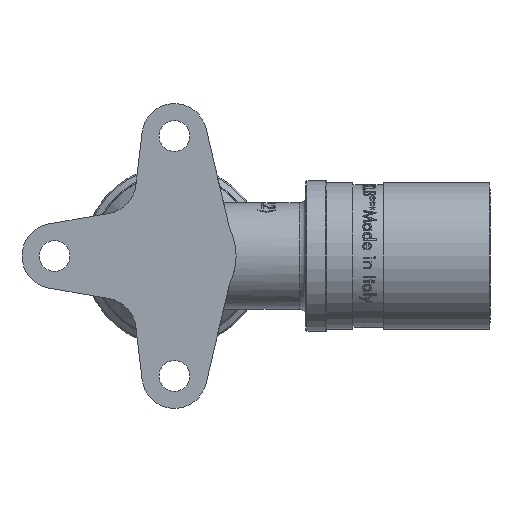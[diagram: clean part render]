
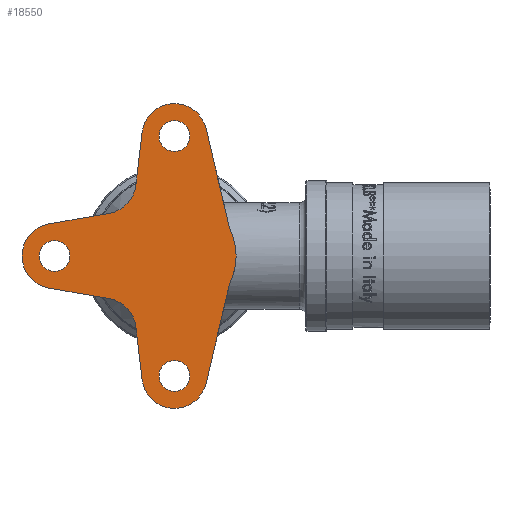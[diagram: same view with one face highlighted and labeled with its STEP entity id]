
A CAD part, front view. The second image highlights one B-rep face of the part: STEP entity #18550.
In plain terms, the highlighted planar face has unit normal (0, -1, 0).
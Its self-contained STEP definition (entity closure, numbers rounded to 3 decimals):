
#880=PLANE('',#19697);
#981=FACE_BOUND('',#3125,.T.);
#982=FACE_BOUND('',#3126,.T.);
#983=FACE_BOUND('',#3127,.T.);
#2008=FACE_OUTER_BOUND('',#3124,.T.);
#3124=EDGE_LOOP('',(#17352,#17353,#17354,#17355,#17356,#17357,#17358,#17359,
#17360,#17361,#17362,#17363,#17364));
#3125=EDGE_LOOP('',(#17365,#17366));
#3126=EDGE_LOOP('',(#17367,#17368));
#3127=EDGE_LOOP('',(#17369,#17370));
#4561=CIRCLE('',#19460,9.);
#4562=CIRCLE('',#19461,9.);
#4718=CIRCLE('',#19673,4.75);
#4719=CIRCLE('',#19676,4.75);
#4720=CIRCLE('',#19679,2.25);
#4721=CIRCLE('',#19680,2.25);
#4722=CIRCLE('',#19682,2.25);
#4723=CIRCLE('',#19683,2.25);
#4724=CIRCLE('',#19685,2.25);
#4725=CIRCLE('',#19686,2.25);
#4726=CIRCLE('',#19689,4.75);
#4727=CIRCLE('',#19692,4.75);
#4728=CIRCLE('',#19695,4.75);
#5908=LINE('',#43082,#7107);
#5912=LINE('',#43092,#7111);
#5917=LINE('',#43114,#7116);
#5920=LINE('',#43121,#7119);
#5922=LINE('',#43127,#7121);
#5924=LINE('',#43133,#7123);
#7107=VECTOR('',#23083,10.);
#7111=VECTOR('',#23093,10.);
#7116=VECTOR('',#23118,10.);
#7119=VECTOR('',#23127,10.);
#7121=VECTOR('',#23135,10.);
#7123=VECTOR('',#23143,10.);
#8849=VERTEX_POINT('',#41467);
#8850=VERTEX_POINT('',#41469);
#8851=VERTEX_POINT('',#41472);
#8987=VERTEX_POINT('',#43075);
#8988=VERTEX_POINT('',#43076);
#8989=VERTEX_POINT('',#43081);
#8990=VERTEX_POINT('',#43085);
#8991=VERTEX_POINT('',#43086);
#8992=VERTEX_POINT('',#43091);
#8993=VERTEX_POINT('',#43095);
#8994=VERTEX_POINT('',#43096);
#8995=VERTEX_POINT('',#43101);
#8996=VERTEX_POINT('',#43102);
#8997=VERTEX_POINT('',#43107);
#8998=VERTEX_POINT('',#43108);
#8999=VERTEX_POINT('',#43113);
#9000=VERTEX_POINT('',#43117);
#9001=VERTEX_POINT('',#43123);
#9002=VERTEX_POINT('',#43129);
#11574=EDGE_CURVE('',#8850,#8849,#4561,.T.);
#11577=EDGE_CURVE('',#8849,#8851,#4562,.T.);
#11766=EDGE_CURVE('',#8987,#8988,#4718,.T.);
#11769=EDGE_CURVE('',#8989,#8988,#5908,.T.);
#11771=EDGE_CURVE('',#8990,#8991,#4719,.T.);
#11774=EDGE_CURVE('',#8992,#8991,#5912,.T.);
#11776=EDGE_CURVE('',#8993,#8994,#4720,.T.);
#11777=EDGE_CURVE('',#8994,#8993,#4721,.T.);
#11779=EDGE_CURVE('',#8995,#8996,#4722,.T.);
#11780=EDGE_CURVE('',#8996,#8995,#4723,.T.);
#11782=EDGE_CURVE('',#8997,#8998,#4724,.T.);
#11783=EDGE_CURVE('',#8998,#8997,#4725,.T.);
#11785=EDGE_CURVE('',#8999,#8850,#5917,.T.);
#11787=EDGE_CURVE('',#9000,#8999,#4726,.T.);
#11789=EDGE_CURVE('',#8987,#9000,#5920,.T.);
#11790=EDGE_CURVE('',#9001,#8989,#4727,.T.);
#11792=EDGE_CURVE('',#8990,#9001,#5922,.T.);
#11793=EDGE_CURVE('',#9002,#8992,#4728,.T.);
#11795=EDGE_CURVE('',#8851,#9002,#5924,.T.);
#17352=ORIENTED_EDGE('',*,*,#11574,.T.);
#17353=ORIENTED_EDGE('',*,*,#11577,.T.);
#17354=ORIENTED_EDGE('',*,*,#11795,.T.);
#17355=ORIENTED_EDGE('',*,*,#11793,.T.);
#17356=ORIENTED_EDGE('',*,*,#11774,.T.);
#17357=ORIENTED_EDGE('',*,*,#11771,.F.);
#17358=ORIENTED_EDGE('',*,*,#11792,.T.);
#17359=ORIENTED_EDGE('',*,*,#11790,.T.);
#17360=ORIENTED_EDGE('',*,*,#11769,.T.);
#17361=ORIENTED_EDGE('',*,*,#11766,.F.);
#17362=ORIENTED_EDGE('',*,*,#11789,.T.);
#17363=ORIENTED_EDGE('',*,*,#11787,.T.);
#17364=ORIENTED_EDGE('',*,*,#11785,.T.);
#17365=ORIENTED_EDGE('',*,*,#11776,.T.);
#17366=ORIENTED_EDGE('',*,*,#11777,.T.);
#17367=ORIENTED_EDGE('',*,*,#11779,.T.);
#17368=ORIENTED_EDGE('',*,*,#11780,.T.);
#17369=ORIENTED_EDGE('',*,*,#11782,.T.);
#17370=ORIENTED_EDGE('',*,*,#11783,.T.);
#18550=ADVANCED_FACE('',(#2008,#981,#982,#983),#880,.T.);
#19460=AXIS2_PLACEMENT_3D('',#41470,#22624,#22625);
#19461=AXIS2_PLACEMENT_3D('',#41474,#22628,#22629);
#19673=AXIS2_PLACEMENT_3D('',#43077,#23077,#23078);
#19676=AXIS2_PLACEMENT_3D('',#43087,#23087,#23088);
#19679=AXIS2_PLACEMENT_3D('',#43097,#23097,#23098);
#19680=AXIS2_PLACEMENT_3D('',#43098,#23099,#23100);
#19682=AXIS2_PLACEMENT_3D('',#43103,#23104,#23105);
#19683=AXIS2_PLACEMENT_3D('',#43104,#23106,#23107);
#19685=AXIS2_PLACEMENT_3D('',#43109,#23111,#23112);
#19686=AXIS2_PLACEMENT_3D('',#43110,#23113,#23114);
#19689=AXIS2_PLACEMENT_3D('',#43118,#23122,#23123);
#19692=AXIS2_PLACEMENT_3D('',#43124,#23130,#23131);
#19695=AXIS2_PLACEMENT_3D('',#43130,#23138,#23139);
#19697=AXIS2_PLACEMENT_3D('',#43134,#23144,#23145);
#22624=DIRECTION('center_axis',(0.,-1.,0.));
#22625=DIRECTION('ref_axis',(-1.,0.,0.));
#22628=DIRECTION('center_axis',(0.,-1.,0.));
#22629=DIRECTION('ref_axis',(-1.,0.,0.));
#23077=DIRECTION('center_axis',(0.,-1.,0.));
#23078=DIRECTION('ref_axis',(0.727,0.,0.687));
#23083=DIRECTION('',(0.985,0.,-0.174));
#23087=DIRECTION('center_axis',(0.,-1.,0.));
#23088=DIRECTION('ref_axis',(0.727,0.,-0.687));
#23093=DIRECTION('',(-0.118,0.,-0.993));
#23097=DIRECTION('center_axis',(0.,1.,0.));
#23098=DIRECTION('ref_axis',(1.,0.,0.));
#23099=DIRECTION('center_axis',(0.,1.,0.));
#23100=DIRECTION('ref_axis',(1.,0.,0.));
#23104=DIRECTION('center_axis',(0.,1.,0.));
#23105=DIRECTION('ref_axis',(1.,0.,0.));
#23106=DIRECTION('center_axis',(0.,1.,0.));
#23107=DIRECTION('ref_axis',(1.,0.,0.));
#23111=DIRECTION('center_axis',(0.,1.,0.));
#23112=DIRECTION('ref_axis',(1.,0.,0.));
#23113=DIRECTION('center_axis',(0.,1.,0.));
#23114=DIRECTION('ref_axis',(1.,0.,0.));
#23118=DIRECTION('',(0.229,0.,0.973));
#23122=DIRECTION('center_axis',(0.,-1.,0.));
#23123=DIRECTION('ref_axis',(-1.,0.,0.));
#23127=DIRECTION('',(0.118,0.,-0.993));
#23130=DIRECTION('center_axis',(0.,-1.,0.));
#23131=DIRECTION('ref_axis',(-1.,0.,0.));
#23135=DIRECTION('',(-0.985,0.,-0.174));
#23138=DIRECTION('center_axis',(0.,-1.,0.));
#23139=DIRECTION('ref_axis',(-1.,0.,0.));
#23143=DIRECTION('',(-0.229,0.,0.973));
#23144=DIRECTION('center_axis',(0.,-1.,0.));
#23145=DIRECTION('ref_axis',(1.,0.,0.));
#41467=CARTESIAN_POINT('',(9.,-13.5,0.));
#41469=CARTESIAN_POINT('',(8.055,-13.5,-4.015));
#41470=CARTESIAN_POINT('Origin',(0.,-13.5,0.));
#41472=CARTESIAN_POINT('',(8.055,-13.5,4.015));
#41474=CARTESIAN_POINT('Origin',(0.,-13.5,0.));
#43075=CARTESIAN_POINT('',(-5.63,-13.5,-10.349));
#43076=CARTESIAN_POINT('',(-9.522,-13.5,-6.23));
#43077=CARTESIAN_POINT('Origin',(-10.347,-13.5,-10.908));
#43081=CARTESIAN_POINT('',(-18.325,-13.5,-4.678));
#43082=CARTESIAN_POINT('',(-20.749,-13.5,-4.25));
#43085=CARTESIAN_POINT('',(-9.522,-13.5,6.23));
#43086=CARTESIAN_POINT('',(-5.63,-13.5,10.349));
#43087=CARTESIAN_POINT('Origin',(-10.347,-13.5,10.908));
#43091=CARTESIAN_POINT('',(-4.717,-13.5,18.058));
#43092=CARTESIAN_POINT('',(-5.894,-13.5,8.116));
#43095=CARTESIAN_POINT('',(2.25,-13.5,17.5));
#43096=CARTESIAN_POINT('',(-2.25,-13.5,17.5));
#43097=CARTESIAN_POINT('Origin',(0.,-13.5,17.5));
#43098=CARTESIAN_POINT('Origin',(0.,-13.5,17.5));
#43101=CARTESIAN_POINT('',(2.25,-13.5,-17.5));
#43102=CARTESIAN_POINT('',(-2.25,-13.5,-17.5));
#43103=CARTESIAN_POINT('Origin',(0.,-13.5,-17.5));
#43104=CARTESIAN_POINT('Origin',(0.,-13.5,-17.5));
#43107=CARTESIAN_POINT('',(-15.25,-13.5,0.));
#43108=CARTESIAN_POINT('',(-19.75,-13.5,0.));
#43109=CARTESIAN_POINT('Origin',(-17.5,-13.5,0.));
#43110=CARTESIAN_POINT('Origin',(-17.5,-13.5,0.));
#43113=CARTESIAN_POINT('',(4.624,-13.5,-18.589));
#43114=CARTESIAN_POINT('',(5.985,-13.5,-12.808));
#43117=CARTESIAN_POINT('',(-4.717,-13.5,-18.058));
#43118=CARTESIAN_POINT('Origin',(0.,-13.5,-17.5));
#43121=CARTESIAN_POINT('',(-6.558,-13.5,-2.508));
#43123=CARTESIAN_POINT('',(-18.325,-13.5,4.678));
#43124=CARTESIAN_POINT('Origin',(-17.5,-13.5,0.));
#43127=CARTESIAN_POINT('',(-14.609,-13.5,5.333));
#43129=CARTESIAN_POINT('',(4.624,-13.5,18.589));
#43130=CARTESIAN_POINT('Origin',(0.,-13.5,17.5));
#43133=CARTESIAN_POINT('',(7.7,-13.5,5.521));
#43134=CARTESIAN_POINT('Origin',(-22.5,-13.5,0.));
